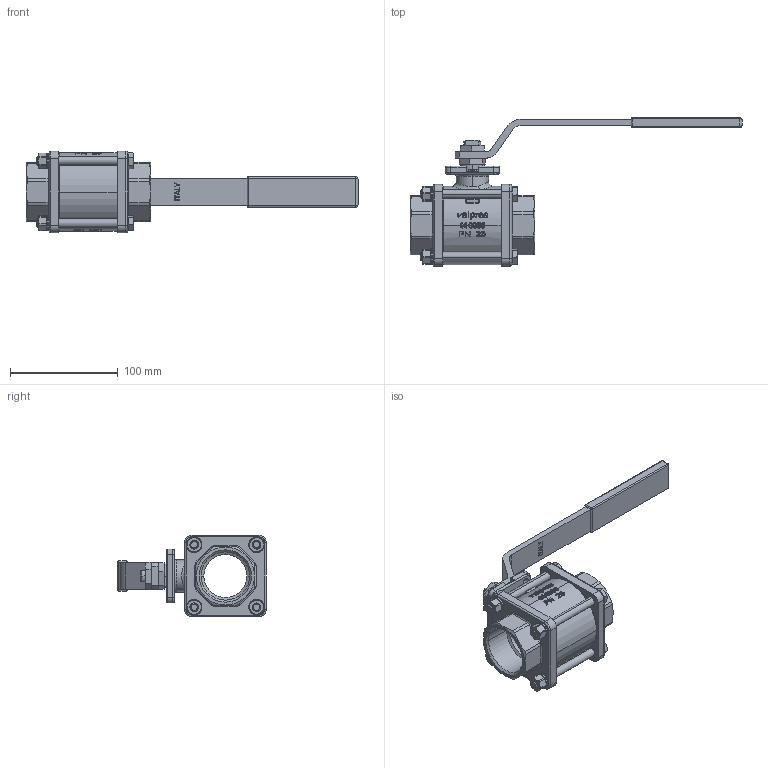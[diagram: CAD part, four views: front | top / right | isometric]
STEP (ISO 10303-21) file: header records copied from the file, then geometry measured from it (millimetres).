
FILE_DESCRIPTION (( 'STEP AP203' ), '1' );
FILE_NAME ('71000008.STEP', '2008-10-15T08:16:20', ( '.' ), ( '.' ), 'SwSTEP 2.0', 'SolidWorks 2007', '' );
FILE_SCHEMA (( 'CONFIG_CONTROL_DESIGN' ));
Products named in the file (1): 71000008
Bounding box: 308.45 x 138 x 76 mm (x, y, z)
Volume: 378401.3 mm3; surface area: 96897.9 mm2
Topology: 1 solids, 1 shells, 1382 faces, 3488 edges, 2165 vertices
Faces by surface type: plane 386, bspline 383, cylinder 376, cone 234, torus 3
Entity records: 97475 total; most frequent: CARTESIAN_POINT 67021, ORIENTED_EDGE 6944, DIRECTION 5456, EDGE_CURVE 3472, VERTEX_POINT 2165, AXIS2_PLACEMENT_3D 2037, EDGE_LOOP 1489, ADVANCED_FACE 1382
